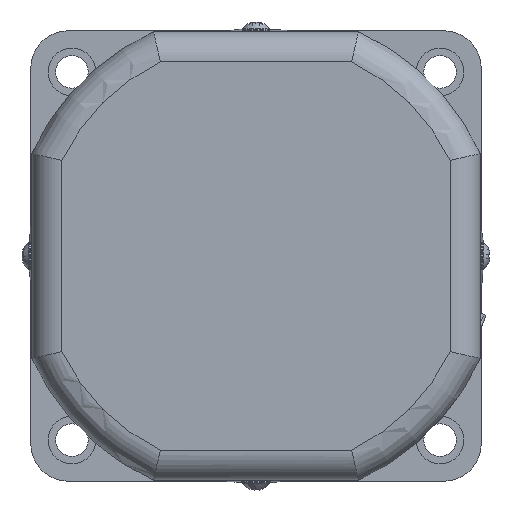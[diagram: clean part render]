
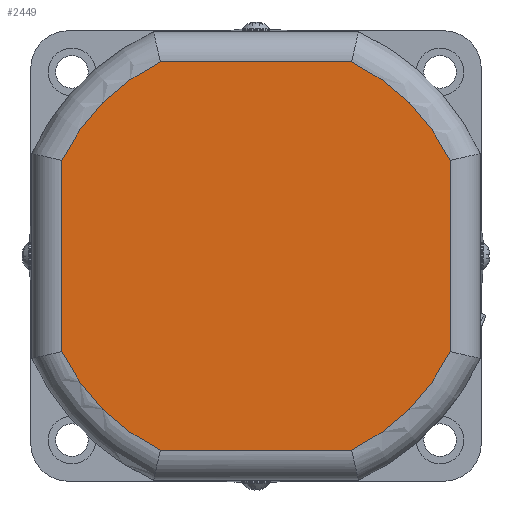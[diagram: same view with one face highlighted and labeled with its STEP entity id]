
A CAD part, left-side view. The second image highlights one B-rep face of the part: STEP entity #2449.
In plain terms, the highlighted planar face has unit normal (-1, 0, 0) as drawn and (0, 0, -1) by its records, which use the part's own axes.
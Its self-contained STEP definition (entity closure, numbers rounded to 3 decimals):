
#1782=CARTESIAN_POINT('',(38.8,-19.108,0.0));
#1783=VERTEX_POINT('',#1782);
#1810=CARTESIAN_POINT('',(19.108,-38.8,0.0));
#1811=VERTEX_POINT('',#1810);
#1829=CARTESIAN_POINT('',(0.0,0.0,0.0));
#1830=DIRECTION('',(0.0,0.0,1.0));
#1831=DIRECTION('',(0.707,-0.707,0.0));
#1832=AXIS2_PLACEMENT_3D('',#1829,#1830,#1831);
#1833=CIRCLE('',#1832,43.25);
#1834=EDGE_CURVE('',#1811,#1783,#1833,.T.);
#1846=CARTESIAN_POINT('',(-19.108,-38.8,0.0));
#1847=VERTEX_POINT('',#1846);
#1865=CARTESIAN_POINT('',(-19.108,-38.8,0.0));
#1866=DIRECTION('',(1.0,0.0,0.0));
#1867=VECTOR('',#1866,38.216);
#1868=LINE('',#1865,#1867);
#1869=EDGE_CURVE('',#1847,#1811,#1868,.T.);
#1888=CARTESIAN_POINT('',(38.8,19.108,0.0));
#1889=VERTEX_POINT('',#1888);
#1914=CARTESIAN_POINT('',(38.8,-19.108,0.0));
#1915=DIRECTION('',(0.0,1.0,0.0));
#1916=VECTOR('',#1915,38.216);
#1917=LINE('',#1914,#1916);
#1918=EDGE_CURVE('',#1783,#1889,#1917,.T.);
#1930=CARTESIAN_POINT('',(-38.8,-19.108,0.0));
#1931=VERTEX_POINT('',#1930);
#1949=CARTESIAN_POINT('',(0.0,0.0,0.0));
#1950=DIRECTION('',(0.0,0.0,1.0));
#1951=DIRECTION('',(-0.707,-0.707,0.0));
#1952=AXIS2_PLACEMENT_3D('',#1949,#1950,#1951);
#1953=CIRCLE('',#1952,43.25);
#1954=EDGE_CURVE('',#1931,#1847,#1953,.T.);
#1974=CARTESIAN_POINT('',(19.108,38.8,0.0));
#1975=VERTEX_POINT('',#1974);
#2001=CARTESIAN_POINT('',(0.0,0.0,0.0));
#2002=DIRECTION('',(0.0,0.0,1.0));
#2003=DIRECTION('',(0.707,0.707,0.0));
#2004=AXIS2_PLACEMENT_3D('',#2001,#2002,#2003);
#2005=CIRCLE('',#2004,43.25);
#2006=EDGE_CURVE('',#1889,#1975,#2005,.T.);
#2018=CARTESIAN_POINT('',(-38.8,19.108,0.0));
#2019=VERTEX_POINT('',#2018);
#2037=CARTESIAN_POINT('',(-38.8,19.108,0.0));
#2038=DIRECTION('',(0.0,-1.0,0.0));
#2039=VECTOR('',#2038,38.216);
#2040=LINE('',#2037,#2039);
#2041=EDGE_CURVE('',#2019,#1931,#2040,.T.);
#2058=CARTESIAN_POINT('',(-19.108,38.8,0.0));
#2059=VERTEX_POINT('',#2058);
#2086=CARTESIAN_POINT('',(19.108,38.8,0.0));
#2087=DIRECTION('',(-1.0,0.0,0.0));
#2088=VECTOR('',#2087,38.216);
#2089=LINE('',#2086,#2088);
#2090=EDGE_CURVE('',#1975,#2059,#2089,.T.);
#2101=CARTESIAN_POINT('',(0.0,0.0,0.0));
#2102=DIRECTION('',(0.0,0.0,1.0));
#2103=DIRECTION('',(-0.707,0.707,0.0));
#2104=AXIS2_PLACEMENT_3D('',#2101,#2102,#2103);
#2105=CIRCLE('',#2104,43.25);
#2106=EDGE_CURVE('',#2059,#2019,#2105,.T.);
#2434=CARTESIAN_POINT('',(0.,0.0,0.0));
#2435=DIRECTION('',(0.0,0.0,1.0));
#2436=DIRECTION('',(1.0,0.0,0.0));
#2437=AXIS2_PLACEMENT_3D('',#2434,#2435,#2436);
#2438=PLANE('',#2437);
#2439=ORIENTED_EDGE('',*,*,#2090,.F.);
#2440=ORIENTED_EDGE('',*,*,#2006,.F.);
#2441=ORIENTED_EDGE('',*,*,#1918,.F.);
#2442=ORIENTED_EDGE('',*,*,#1834,.F.);
#2443=ORIENTED_EDGE('',*,*,#1869,.F.);
#2444=ORIENTED_EDGE('',*,*,#1954,.F.);
#2445=ORIENTED_EDGE('',*,*,#2041,.F.);
#2446=ORIENTED_EDGE('',*,*,#2106,.F.);
#2447=EDGE_LOOP('',(#2439,#2440,#2441,#2442,#2443,#2444,#2445,#2446));
#2448=FACE_OUTER_BOUND('',#2447,.T.);
#2449=ADVANCED_FACE('',(#2448),#2438,.F.);
